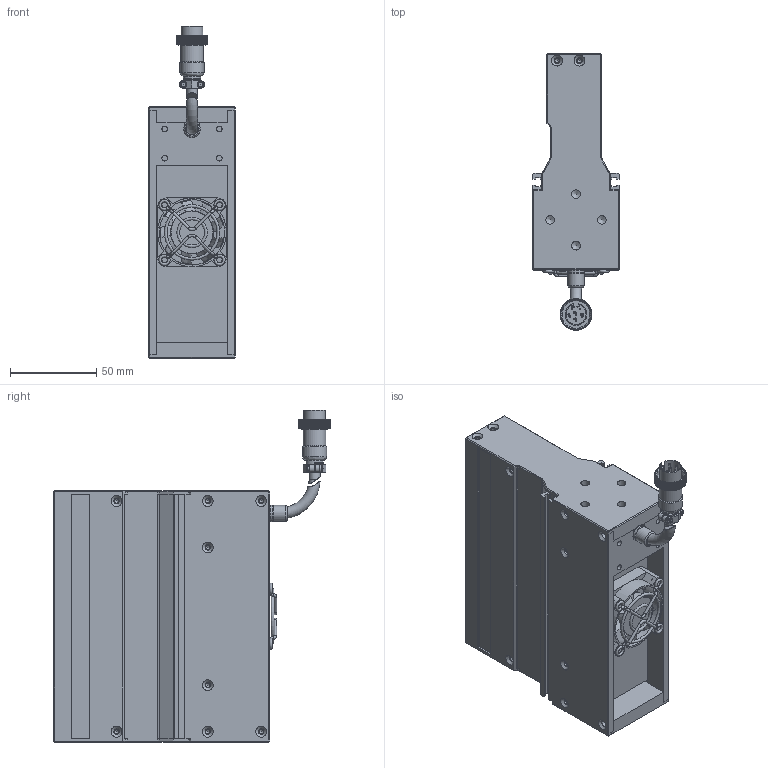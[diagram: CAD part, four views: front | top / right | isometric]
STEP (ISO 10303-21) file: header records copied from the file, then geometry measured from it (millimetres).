
FILE_DESCRIPTION (( 'STEP AP203' ), '1' );
FILE_NAME ('OPT-LSSC146-W-V3.1尨砩芞.STEP', '2025-01-23T08:56:12', ( 'USER' ), ( '' ), 'SwSTEP 2.0', 'SolidWorks 2016', '' );
FILE_SCHEMA (( 'CONFIG_CONTROL_DESIGN' ));
Products named in the file (2): OPT-LSSC146-W-V3.1尨砩芞
Bounding box: 50 x 160.65 x 192.83 mm (x, y, z)
Volume: 564498.3 mm3; surface area: 125979.1 mm2
Topology: 9 solids, 17 shells, 3622 faces, 8023 edges, 4485 vertices
Faces by surface type: bspline 2086, cylinder 711, plane 699, torus 63, cone 63
Full cylindrical faces by diameter (mm): 0.95 x6, 1.6 x4, 2 x5, 2.5 x20, 3.2 x8, 3.4 x22, 3.5 x4, 5 x8, 6.2 x4, 6.4 x3, 7.5 x1, 8.6 x1, 9.3 x1, 9.8 x1, 10 x1, 13.2 x1, 14 x1, 16.1 x1, 24.8 x1, 38 x1
Entity records: 121924 total; most frequent: CARTESIAN_POINT 61527, ORIENTED_EDGE 15560, EDGE_CURVE 7780, DIRECTION 5928, B_SPLINE_CURVE_WITH_KNOTS 5449, VERTEX_POINT 4423, EDGE_LOOP 3885, FACE_OUTER_BOUND 3742
